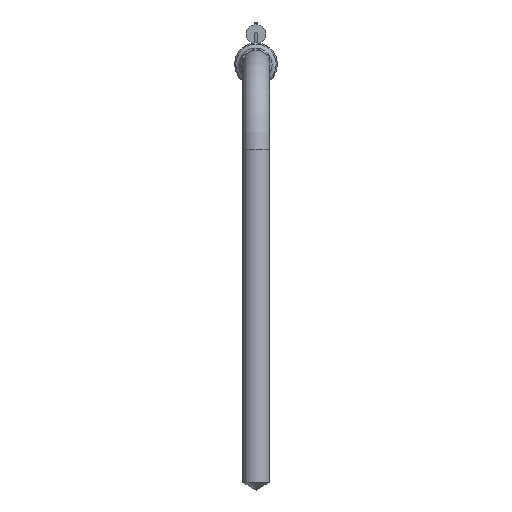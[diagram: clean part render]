
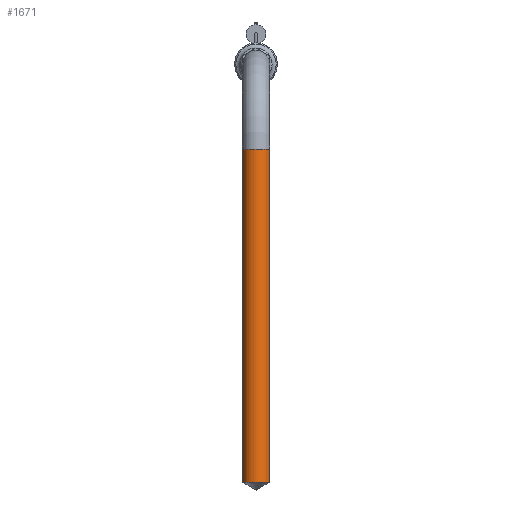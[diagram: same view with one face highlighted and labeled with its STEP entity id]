
A CAD part, top view. The second image highlights one B-rep face of the part: STEP entity #1671.
In plain terms, the highlighted cylindrical face has radius 3.2 mm (diameter 6.4 mm), a full revolution.
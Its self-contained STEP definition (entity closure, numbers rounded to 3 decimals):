
#36 = EDGE_CURVE ( 'NONE', #986, #986, #2112, .T. ) ;
#124 = DIRECTION ( 'NONE',  ( 0., -1., 0. ) ) ;
#145 = DIRECTION ( 'NONE',  ( 0., 0., 1. ) ) ;
#325 = FACE_OUTER_BOUND ( 'NONE', #917, .T. ) ;
#327 = AXIS2_PLACEMENT_3D ( 'NONE', #866, #703, #1359 ) ;
#695 = CARTESIAN_POINT ( 'NONE',  ( 0., -98.16, 32.2 ) ) ;
#703 = DIRECTION ( 'NONE',  ( 0., -1., 0. ) ) ;
#709 = AXIS2_PLACEMENT_3D ( 'NONE', #1657, #1968, #145 ) ;
#774 = FACE_OUTER_BOUND ( 'NONE', #1510, .T. ) ;
#828 = DIRECTION ( 'NONE',  ( -1., 0., 0. ) ) ;
#866 = CARTESIAN_POINT ( 'NONE',  ( 0., -20., 29. ) ) ;
#917 = EDGE_LOOP ( 'NONE', ( #1868 ) ) ;
#966 = CARTESIAN_POINT ( 'NONE',  ( 0., -20., 29. ) ) ;
#986 = VERTEX_POINT ( 'NONE', #2011 ) ;
#1359 = DIRECTION ( 'NONE',  ( 0., 0., 1. ) ) ;
#1384 = VERTEX_POINT ( 'NONE', #695 ) ;
#1391 = CIRCLE ( 'NONE', #709, 3.2 ) ;
#1510 = EDGE_LOOP ( 'NONE', ( #1823 ) ) ;
#1657 = CARTESIAN_POINT ( 'NONE',  ( 0., -98.16, 29. ) ) ;
#1671 = ADVANCED_FACE ( 'NONE', ( #325, #774 ), #1689, .T. ) ;
#1689 = CYLINDRICAL_SURFACE ( 'NONE', #327, 3.2 ) ;
#1823 = ORIENTED_EDGE ( 'NONE', *, *, #36, .T. ) ;
#1868 = ORIENTED_EDGE ( 'NONE', *, *, #2037, .T. ) ;
#1968 = DIRECTION ( 'NONE',  ( 0., 1., 0. ) ) ;
#2011 = CARTESIAN_POINT ( 'NONE',  ( -3.2, -20., 29. ) ) ;
#2037 = EDGE_CURVE ( 'NONE', #1384, #1384, #1391, .T. ) ;
#2086 = AXIS2_PLACEMENT_3D ( 'NONE', #966, #124, #828 ) ;
#2112 = CIRCLE ( 'NONE', #2086, 3.2 ) ;
